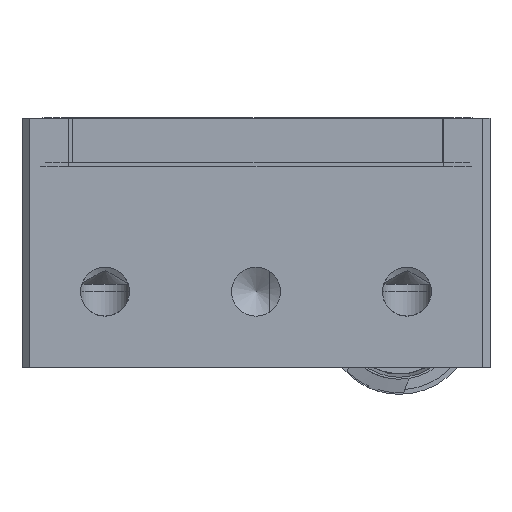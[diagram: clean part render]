
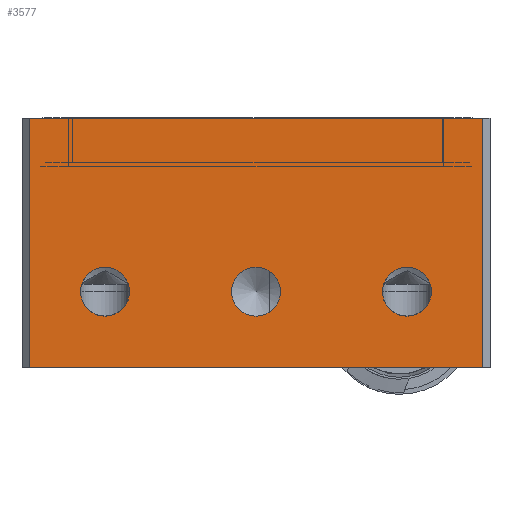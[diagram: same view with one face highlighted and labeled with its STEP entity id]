
A CAD part, front view. The second image highlights one B-rep face of the part: STEP entity #3577.
In plain terms, the highlighted planar face has unit normal (0, -1, 0).
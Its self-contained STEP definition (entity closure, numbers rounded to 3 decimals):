
#304=CIRCLE('',#5285,1.621);
#308=CIRCLE('',#5295,1.621);
#312=CIRCLE('',#5308,1.621);
#1172=ORIENTED_EDGE('',*,*,#1600,.T.);
#1173=ORIENTED_EDGE('',*,*,#1609,.T.);
#1174=ORIENTED_EDGE('',*,*,#1593,.T.);
#1175=ORIENTED_EDGE('',*,*,#1796,.F.);
#1176=ORIENTED_EDGE('',*,*,#1797,.T.);
#1177=ORIENTED_EDGE('',*,*,#1798,.T.);
#1178=ORIENTED_EDGE('',*,*,#1799,.T.);
#1593=EDGE_CURVE('',#2037,#2037,#304,.T.);
#1600=EDGE_CURVE('',#2042,#2042,#308,.T.);
#1609=EDGE_CURVE('',#2047,#2047,#312,.T.);
#1796=EDGE_CURVE('',#2172,#2173,#2407,.T.);
#1797=EDGE_CURVE('',#2172,#2174,#2408,.T.);
#1798=EDGE_CURVE('',#2174,#2175,#2409,.T.);
#1799=EDGE_CURVE('',#2175,#2173,#2410,.T.);
#2037=VERTEX_POINT('',#7743);
#2042=VERTEX_POINT('',#7758);
#2047=VERTEX_POINT('',#7776);
#2172=VERTEX_POINT('',#8327);
#2173=VERTEX_POINT('',#8328);
#2174=VERTEX_POINT('',#8330);
#2175=VERTEX_POINT('',#8332);
#2407=LINE('',#8326,#2647);
#2408=LINE('',#8329,#2648);
#2409=LINE('',#8331,#2649);
#2410=LINE('',#8333,#2650);
#2647=VECTOR('',#6397,1000.);
#2648=VECTOR('',#6398,1000.);
#2649=VECTOR('',#6399,1000.);
#2650=VECTOR('',#6400,1000.);
#2940=EDGE_LOOP('',(#1172));
#2941=EDGE_LOOP('',(#1173));
#2942=EDGE_LOOP('',(#1174));
#2943=EDGE_LOOP('',(#1175,#1176,#1177,#1178));
#3239=FACE_BOUND('',#2940,.T.);
#3240=FACE_BOUND('',#2941,.T.);
#3241=FACE_BOUND('',#2942,.T.);
#3242=FACE_BOUND('',#2943,.T.);
#3375=PLANE('',#5443);
#3577=ADVANCED_FACE('',(#3239,#3240,#3241,#3242),#3375,.F.);
#5285=AXIS2_PLACEMENT_3D('',#7742,#5981,#5982);
#5295=AXIS2_PLACEMENT_3D('',#7757,#6001,#6002);
#5308=AXIS2_PLACEMENT_3D('',#7775,#6027,#6028);
#5443=AXIS2_PLACEMENT_3D('',#8325,#6395,#6396);
#5981=DIRECTION('',(0.,1.,0.));
#5982=DIRECTION('',(0.,0.,-1.));
#6001=DIRECTION('',(0.,1.,0.));
#6002=DIRECTION('',(0.,0.,-1.));
#6027=DIRECTION('',(0.,1.,0.));
#6028=DIRECTION('',(0.,0.,-1.));
#6395=DIRECTION('',(0.,1.,0.));
#6396=DIRECTION('',(0.,0.,1.));
#6397=DIRECTION('',(-1.,0.,0.));
#6398=DIRECTION('',(0.,0.,1.));
#6399=DIRECTION('',(-1.,0.,0.));
#6400=DIRECTION('',(0.,0.,-1.));
#7742=CARTESIAN_POINT('',(0.,-253.5,-11.5));
#7743=CARTESIAN_POINT('',(0.,-253.5,-13.121));
#7757=CARTESIAN_POINT('',(-10.,-253.5,-11.5));
#7758=CARTESIAN_POINT('',(-10.,-253.5,-13.121));
#7775=CARTESIAN_POINT('',(10.,-253.5,-11.5));
#7776=CARTESIAN_POINT('',(10.,-253.5,-13.121));
#8325=CARTESIAN_POINT('',(15.5,-253.5,-16.5));
#8326=CARTESIAN_POINT('',(15.5,-253.5,-16.5));
#8327=CARTESIAN_POINT('',(15.,-253.5,-16.5));
#8328=CARTESIAN_POINT('',(-15.,-253.5,-16.5));
#8329=CARTESIAN_POINT('',(15.,-253.5,-16.5));
#8330=CARTESIAN_POINT('',(15.,-253.5,0.));
#8331=CARTESIAN_POINT('',(15.5,-253.5,0.));
#8332=CARTESIAN_POINT('',(-15.,-253.5,0.));
#8333=CARTESIAN_POINT('',(-15.,-253.5,-16.5));
